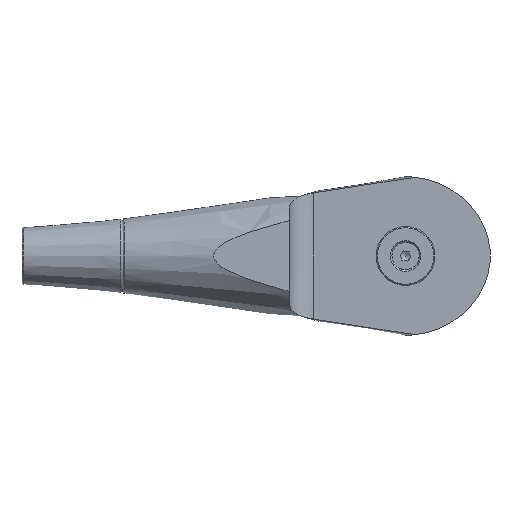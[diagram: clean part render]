
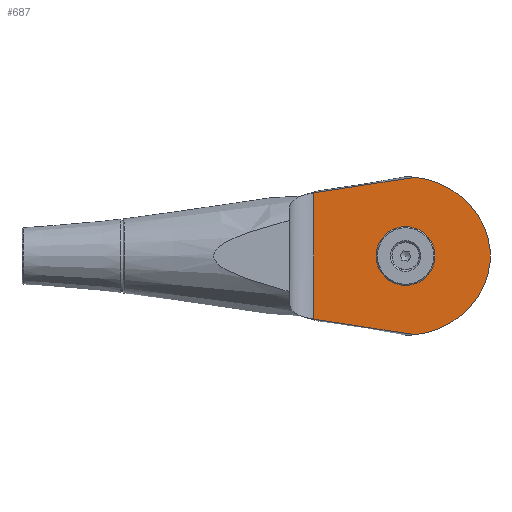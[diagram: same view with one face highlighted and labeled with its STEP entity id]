
A CAD part, front view. The second image highlights one B-rep face of the part: STEP entity #687.
In plain terms, the highlighted planar face has unit normal (0, -1, 0).
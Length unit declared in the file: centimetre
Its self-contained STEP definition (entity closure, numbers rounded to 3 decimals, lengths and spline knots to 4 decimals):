
#21=LINE('',#1239,#41);
#41=VECTOR('',#892,10.7307);
#66=(
BOUNDED_CURVE()
B_SPLINE_CURVE(2,(#1068,#1069,#1070),.UNSPECIFIED.,.F.,.F.)
B_SPLINE_CURVE_WITH_KNOTS((3,3),(0.,9.3639),.UNSPECIFIED.)
CURVE()
GEOMETRIC_REPRESENTATION_ITEM()
RATIONAL_B_SPLINE_CURVE((1.,1.009,1.007))
REPRESENTATION_ITEM('')
);
#70=(
BOUNDED_CURVE()
B_SPLINE_CURVE(2,(#1186,#1187,#1188),.UNSPECIFIED.,.F.,.F.)
B_SPLINE_CURVE_WITH_KNOTS((3,3),(5.8117,15.1756),
 .UNSPECIFIED.)
CURVE()
GEOMETRIC_REPRESENTATION_ITEM()
RATIONAL_B_SPLINE_CURVE((1.007,1.009,1.))
REPRESENTATION_ITEM('')
);
#97=PLANE('',#761);
#123=FACE_BOUND('',#217,.T.);
#158=FACE_OUTER_BOUND('',#216,.T.);
#216=EDGE_LOOP('',(#505,#506,#507,#508,#509,#510));
#217=EDGE_LOOP('',(#511));
#282=CIRCLE('',#750,2.25);
#284=CIRCLE('',#753,7.3998);
#286=CIRCLE('',#756,7.3998);
#288=CIRCLE('',#759,6.2);
#320=VERTEX_POINT('',#1044);
#321=VERTEX_POINT('',#1067);
#332=VERTEX_POINT('',#1172);
#333=VERTEX_POINT('',#1185);
#335=VERTEX_POINT('',#1219);
#337=VERTEX_POINT('',#1224);
#339=VERTEX_POINT('',#1230);
#383=EDGE_CURVE('',#320,#321,#66,.T.);
#395=EDGE_CURVE('',#332,#333,#70,.T.);
#400=EDGE_CURVE('',#335,#335,#282,.T.);
#402=EDGE_CURVE('',#332,#337,#284,.T.);
#405=EDGE_CURVE('',#339,#321,#286,.T.);
#408=EDGE_CURVE('',#337,#339,#288,.T.);
#410=EDGE_CURVE('',#320,#333,#21,.T.);
#505=ORIENTED_EDGE('',*,*,#402,.T.);
#506=ORIENTED_EDGE('',*,*,#408,.T.);
#507=ORIENTED_EDGE('',*,*,#405,.T.);
#508=ORIENTED_EDGE('',*,*,#383,.F.);
#509=ORIENTED_EDGE('',*,*,#410,.T.);
#510=ORIENTED_EDGE('',*,*,#395,.F.);
#511=ORIENTED_EDGE('',*,*,#400,.T.);
#687=ADVANCED_FACE('',(#158,#123),#97,.F.);
#750=AXIS2_PLACEMENT_3D('',#1220,#866,#867);
#753=AXIS2_PLACEMENT_3D('',#1225,#872,#873);
#756=AXIS2_PLACEMENT_3D('',#1231,#879,#880);
#759=AXIS2_PLACEMENT_3D('',#1236,#886,#887);
#761=AXIS2_PLACEMENT_3D('',#1238,#890,#891);
#866=DIRECTION('center_axis',(0.,1.,0.));
#867=DIRECTION('ref_axis',(-1.,0.,0.));
#872=DIRECTION('center_axis',(0.,-1.,0.));
#873=DIRECTION('ref_axis',(0.,0.,
1.));
#879=DIRECTION('center_axis',(0.,-1.,0.));
#880=DIRECTION('ref_axis',(-0.833,0.,-0.553));
#886=DIRECTION('center_axis',(0.,-1.,0.));
#887=DIRECTION('ref_axis',(-0.833,0.,0.553));
#890=DIRECTION('center_axis',(0.,1.,0.));
#891=DIRECTION('ref_axis',(-1.,0.,0.));
#892=DIRECTION('',(0.,0.,-1.));
#1044=CARTESIAN_POINT('',(-7.8,-1.5,5.3654));
#1067=CARTESIAN_POINT('',(0.812,-1.5,6.6921));
#1068=CARTESIAN_POINT('Ctrl Pts',(-7.8,-1.5,5.3654));
#1069=CARTESIAN_POINT('Ctrl Pts',(-3.9678,-1.5,5.9601));
#1070=CARTESIAN_POINT('Ctrl Pts',(0.812,-1.5,6.6921));
#1172=CARTESIAN_POINT('',(0.812,-1.5,-6.6921));
#1185=CARTESIAN_POINT('',(-7.8,-1.5,-5.3654));
#1186=CARTESIAN_POINT('Ctrl Pts',(0.812,-1.5,-6.6921));
#1187=CARTESIAN_POINT('Ctrl Pts',(-3.9678,-1.5,-5.9601));
#1188=CARTESIAN_POINT('Ctrl Pts',(-7.8,-1.5,-5.3654));
#1219=CARTESIAN_POINT('',(2.25,-1.5,0.));
#1220=CARTESIAN_POINT('Origin',(0.,-1.5,0.));
#1224=CARTESIAN_POINT('',(6.1675,-1.5,-3.426));
#1225=CARTESIAN_POINT('Origin',(0.,-1.5,0.663));
#1230=CARTESIAN_POINT('',(6.1675,-1.5,3.426));
#1231=CARTESIAN_POINT('Origin',(0.,-1.5,-0.663));
#1236=CARTESIAN_POINT('Origin',(1.,-1.5,0.));
#1238=CARTESIAN_POINT('Origin',(7.2,-1.5,0.));
#1239=CARTESIAN_POINT('',(-7.8,-1.5,0.));
